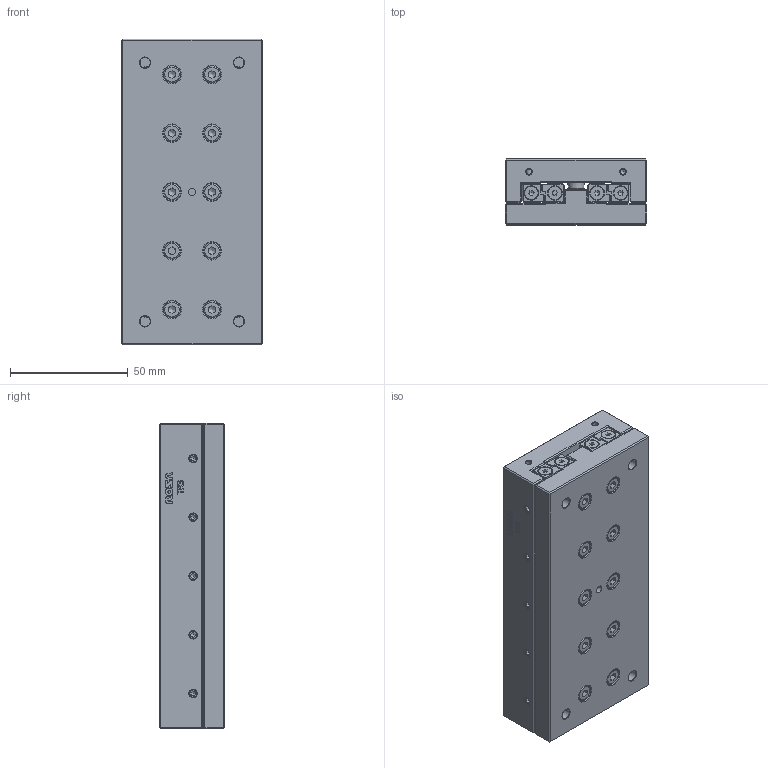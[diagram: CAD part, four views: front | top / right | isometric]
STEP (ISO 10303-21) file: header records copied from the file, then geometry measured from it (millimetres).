
FILE_DESCRIPTION(/* description */ ('Tavola TR3 L= 130 mm'),/* implementation_level */ '2;1');
FILE_NAME(/* name */ 'TR030130-00.stp',/* time_stamp */ '2024-02-07T10:26:41+01:00',/* author */ ('Rosa sistemi'),/* organization */ (''),/* preprocessor_version */ 'ST-DEVELOPER v20',/* originating_system */ 'Autodesk Inventor 2024',/* authorisation */ '');
FILE_SCHEMA (('AUTOMOTIVE_DESIGN { 1 0 10303 214 3 1 1 }'));
Products named in the file (2): TR030130-00; TR030130-00_1
Assembly tree (1 placements, depth 2):
  TR030130-00
    TR030130-00_1
Bounding box: 60 x 28 x 130 mm (x, y, z)
Volume: 199760.6 mm3; surface area: 63341.4 mm2
Topology: 12 solids, 12 shells, 1611 faces, 4125 edges, 2702 vertices
Faces by surface type: plane 982, cylinder 223, bspline 196, cone 164, torus 46
Full cylindrical faces by diameter (mm): 0.929 x4, 1.161 x1, 2.459 x4, 2.554 x4, 3 x6, 3.1 x4, 3.192 x1, 3.242 x34, 4 x20, 4.5 x24, 5.7 x8, 6 x20, 7 x20, 7.5 x24
Entity records: 51056 total; most frequent: CARTESIAN_POINT 11589, ORIENTED_EDGE 8176, DIRECTION 7152, EDGE_CURVE 4088, VERTEX_POINT 2702, LINE 2526, VECTOR 2526, AXIS2_PLACEMENT_3D 2313
